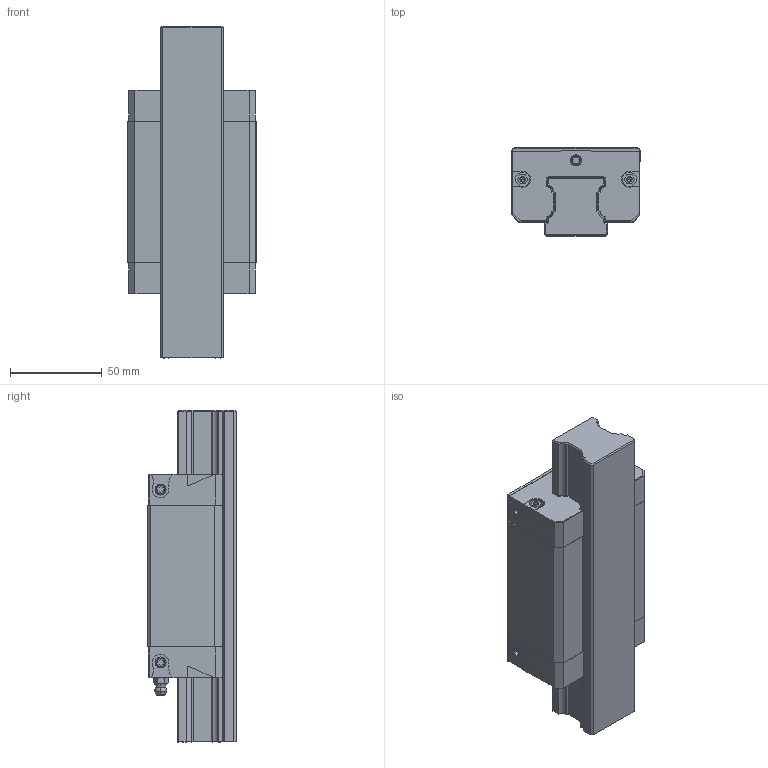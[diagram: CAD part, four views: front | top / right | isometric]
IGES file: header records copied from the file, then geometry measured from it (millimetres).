
Start section: 3D InterOp IGES (v. 2019 1.0.2), Spatial Corp. Copyright (c) 1999-2017.
Global section: file name: R2011 ... 90_size35.igs; native system: Spatial Corp.; preprocessor: 3D InterOp GENERIC/IGES 3.0; author: Noname; organization: Noname; date: 20220629.155238; units: millimetre
Bounding box: 70 x 48 x 180.5 mm (x, y, z)
Surface area: 81482.9 mm2 (no closed solid volume)
Topology: 0 solids, 0 shells, 525 faces, 2772 edges, 2742 vertices
Faces by surface type: extrusion 292, revolution 233
